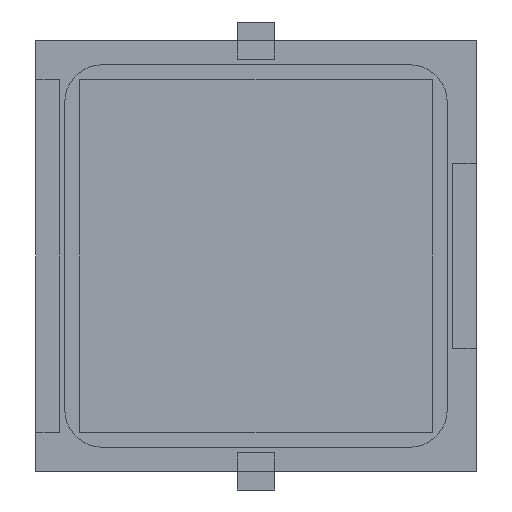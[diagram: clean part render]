
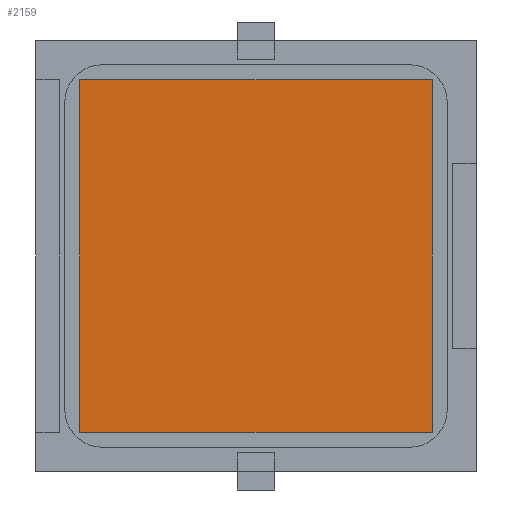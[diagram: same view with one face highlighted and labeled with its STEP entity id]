
A CAD part, front view. The second image highlights one B-rep face of the part: STEP entity #2159.
In plain terms, the highlighted planar face has unit normal (0, -1, 0).
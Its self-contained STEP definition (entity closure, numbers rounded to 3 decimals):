
#518 = CARTESIAN_POINT ( 'NONE',  ( -9.5, -0.13, -9.5 ) ) ;
#704 = EDGE_CURVE ( 'NONE', #5307, #1566, #875, .T. ) ;
#865 = AXIS2_PLACEMENT_3D ( 'NONE', #1702, #1272, #914 ) ;
#875 = LINE ( 'NONE', #2627, #3105 ) ;
#914 = DIRECTION ( 'NONE',  ( 0., 0., 1. ) ) ;
#1261 = EDGE_CURVE ( 'NONE', #1566, #2997, #3460, .T. ) ;
#1272 = DIRECTION ( 'NONE',  ( 0., -1., 0. ) ) ;
#1282 = CARTESIAN_POINT ( 'NONE',  ( -9.5, -0.13, -9.5 ) ) ;
#1566 = VERTEX_POINT ( 'NONE', #4377 ) ;
#1702 = CARTESIAN_POINT ( 'NONE',  ( 9.5, -0.13, 9.5 ) ) ;
#2017 = EDGE_CURVE ( 'NONE', #2997, #2415, #2335, .T. ) ;
#2153 = DIRECTION ( 'NONE',  ( -1., 0., 0. ) ) ;
#2159 = ADVANCED_FACE ( 'NONE', ( #3444 ), #4431, .T. ) ;
#2250 = EDGE_CURVE ( 'NONE', #2415, #5307, #4522, .T. ) ;
#2335 = LINE ( 'NONE', #3723, #5524 ) ;
#2415 = VERTEX_POINT ( 'NONE', #3464 ) ;
#2627 = CARTESIAN_POINT ( 'NONE',  ( 9.5, -0.13, 9.5 ) ) ;
#2885 = VECTOR ( 'NONE', #3671, 1000. ) ;
#2997 = VERTEX_POINT ( 'NONE', #518 ) ;
#3086 = ORIENTED_EDGE ( 'NONE', *, *, #2250, .T. ) ;
#3105 = VECTOR ( 'NONE', #2153, 1000. ) ;
#3142 = ORIENTED_EDGE ( 'NONE', *, *, #1261, .T. ) ;
#3153 = DIRECTION ( 'NONE',  ( 1., 0., 0. ) ) ;
#3267 = VECTOR ( 'NONE', #5224, 1000. ) ;
#3444 = FACE_OUTER_BOUND ( 'NONE', #5089, .T. ) ;
#3460 = LINE ( 'NONE', #1282, #3267 ) ;
#3464 = CARTESIAN_POINT ( 'NONE',  ( 9.5, -0.13, -9.5 ) ) ;
#3671 = DIRECTION ( 'NONE',  ( 0., 0., 1. ) ) ;
#3723 = CARTESIAN_POINT ( 'NONE',  ( 9.5, -0.13, -9.5 ) ) ;
#4166 = ORIENTED_EDGE ( 'NONE', *, *, #704, .T. ) ;
#4205 = ORIENTED_EDGE ( 'NONE', *, *, #2017, .T. ) ;
#4377 = CARTESIAN_POINT ( 'NONE',  ( -9.5, -0.13, 9.5 ) ) ;
#4431 = PLANE ( 'NONE',  #865 ) ;
#4522 = LINE ( 'NONE', #4579, #2885 ) ;
#4579 = CARTESIAN_POINT ( 'NONE',  ( 9.5, -0.13, -9.5 ) ) ;
#5089 = EDGE_LOOP ( 'NONE', ( #3086, #4166, #3142, #4205 ) ) ;
#5224 = DIRECTION ( 'NONE',  ( 0., 0., -1. ) ) ;
#5307 = VERTEX_POINT ( 'NONE', #5431 ) ;
#5431 = CARTESIAN_POINT ( 'NONE',  ( 9.5, -0.13, 9.5 ) ) ;
#5524 = VECTOR ( 'NONE', #3153, 1000. ) ;
